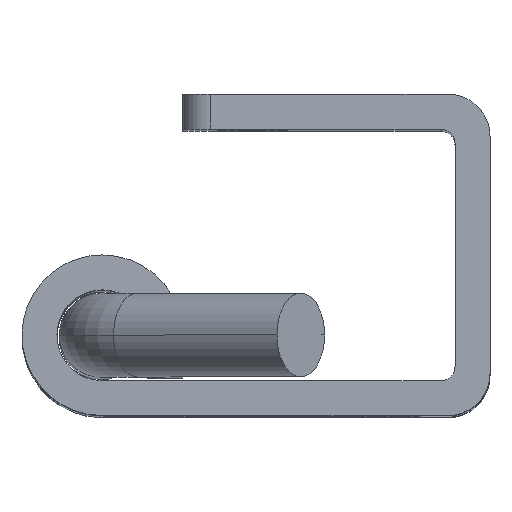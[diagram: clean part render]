
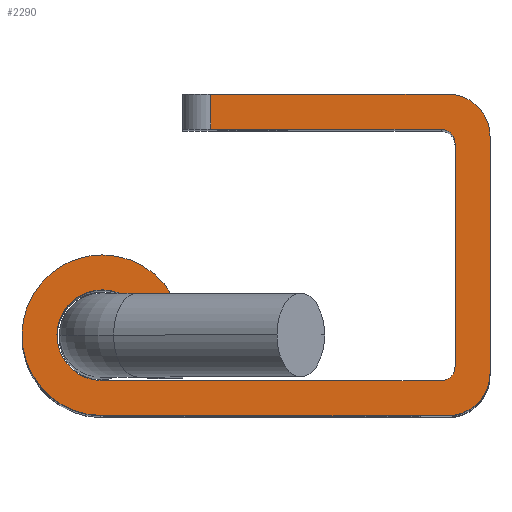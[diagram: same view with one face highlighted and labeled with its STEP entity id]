
A CAD part, top view. The second image highlights one B-rep face of the part: STEP entity #2290.
In plain terms, the highlighted planar face has unit normal (0, 0, 1).
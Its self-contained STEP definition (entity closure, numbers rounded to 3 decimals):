
#12 = DIRECTION ( 'NONE',  ( 0., 1., 0. ) ) ;
#17 = DIRECTION ( 'NONE',  ( 0., 1., 0. ) ) ;
#34 = DIRECTION ( 'NONE',  ( 1., 0., 0. ) ) ;
#39 = CARTESIAN_POINT ( 'NONE',  ( 25.357, 19.5, 45.5 ) ) ;
#80 = CARTESIAN_POINT ( 'NONE',  ( 24.857, 23., 45.5 ) ) ;
#81 = DIRECTION ( 'NONE',  ( 1., 0., 0. ) ) ;
#84 = VERTEX_POINT ( 'NONE', #80 ) ;
#95 = CARTESIAN_POINT ( 'NONE',  ( 0., 0., 45.5 ) ) ;
#101 = VERTEX_POINT ( 'NONE', #1336 ) ;
#130 = CARTESIAN_POINT ( 'NONE',  ( 24.357, 3.5, 45.5 ) ) ;
#135 = ORIENTED_EDGE ( 'NONE', *, *, #889, .T. ) ;
#146 = ORIENTED_EDGE ( 'NONE', *, *, #1002, .F. ) ;
#182 = VERTEX_POINT ( 'NONE', #1386 ) ;
#216 = EDGE_CURVE ( 'NONE', #2269, #101, #1798, .T. ) ;
#217 = EDGE_CURVE ( 'NONE', #1638, #1141, #2135, .T. ) ;
#225 = CARTESIAN_POINT ( 'NONE',  ( 5.857, 2.8, 45.5 ) ) ;
#244 = DIRECTION ( 'NONE',  ( 0., 0., 1. ) ) ;
#315 = CIRCLE ( 'NONE', #1644, 1. ) ;
#332 = CARTESIAN_POINT ( 'NONE',  ( 0.215, 0., 45.5 ) ) ;
#344 = CARTESIAN_POINT ( 'NONE',  ( 0., 0., 45.5 ) ) ;
#360 = VECTOR ( 'NONE', #1052, 1000. ) ;
#371 = VERTEX_POINT ( 'NONE', #963 ) ;
#390 = CARTESIAN_POINT ( 'NONE',  ( 0.107, 5.749, 45.5 ) ) ;
#400 = VERTEX_POINT ( 'NONE', #614 ) ;
#408 = CIRCLE ( 'NONE', #1252, 3. ) ;
#426 = EDGE_CURVE ( 'NONE', #371, #1845, #315, .T. ) ;
#444 = CIRCLE ( 'NONE', #1776, 3.25 ) ;
#457 = CARTESIAN_POINT ( 'NONE',  ( 7.857, 0., 45.5 ) ) ;
#478 = AXIS2_PLACEMENT_3D ( 'NONE', #1341, #244, #2272 ) ;
#485 = ORIENTED_EDGE ( 'NONE', *, *, #1525, .T. ) ;
#498 = CARTESIAN_POINT ( 'NONE',  ( 0.072, 0., 45.5 ) ) ;
#527 = CARTESIAN_POINT ( 'NONE',  ( 0., 0., 45.5 ) ) ;
#540 = CARTESIAN_POINT ( 'NONE',  ( 5.857, 5.749, 45.5 ) ) ;
#608 = EDGE_CURVE ( 'NONE', #2275, #1912, #925, .T. ) ;
#610 = CARTESIAN_POINT ( 'NONE',  ( 27.857, 3., 45.5 ) ) ;
#611 = DIRECTION ( 'NONE',  ( 0., 0., 1. ) ) ;
#614 = CARTESIAN_POINT ( 'NONE',  ( 7.857, 23., 45.5 ) ) ;
#632 = FACE_OUTER_BOUND ( 'NONE', #1691, .T. ) ;
#636 = ORIENTED_EDGE ( 'NONE', *, *, #1210, .T. ) ;
#651 = CARTESIAN_POINT ( 'NONE',  ( 3.357, 5.749, 45.5 ) ) ;
#705 = CARTESIAN_POINT ( 'NONE',  ( 0., 2.5, 45.5 ) ) ;
#720 = VECTOR ( 'NONE', #1757, 1000. ) ;
#730 = ORIENTED_EDGE ( 'NONE', *, *, #934, .T. ) ;
#756 = VERTEX_POINT ( 'NONE', #610 ) ;
#762 = EDGE_CURVE ( 'NONE', #1141, #756, #1214, .T. ) ;
#781 = CIRCLE ( 'NONE', #1211, 5.75 ) ;
#783 = CARTESIAN_POINT ( 'NONE',  ( 24.357, 19.5, 45.5 ) ) ;
#814 = ORIENTED_EDGE ( 'NONE', *, *, #608, .F. ) ;
#820 = ORIENTED_EDGE ( 'NONE', *, *, #2294, .T. ) ;
#821 = DIRECTION ( 'NONE',  ( 0., 0., -1. ) ) ;
#826 = LINE ( 'NONE', #1549, #1645 ) ;
#853 = VECTOR ( 'NONE', #1241, 1000. ) ;
#870 = CIRCLE ( 'NONE', #1475, 1. ) ;
#889 = EDGE_CURVE ( 'NONE', #400, #1098, #1059, .T. ) ;
#896 = DIRECTION ( 'NONE',  ( 0., 0., -1. ) ) ;
#925 = LINE ( 'NONE', #1119, #2174 ) ;
#934 = EDGE_CURVE ( 'NONE', #84, #400, #1589, .T. ) ;
#962 = ORIENTED_EDGE ( 'NONE', *, *, #1574, .T. ) ;
#963 = CARTESIAN_POINT ( 'NONE',  ( 24.357, 20.5, 45.5 ) ) ;
#1001 = CARTESIAN_POINT ( 'NONE',  ( 0.027, 2.5, 45.5 ) ) ;
#1002 = EDGE_CURVE ( 'NONE', #1742, #1845, #826, .T. ) ;
#1003 = ORIENTED_EDGE ( 'NONE', *, *, #2208, .T. ) ;
#1011 = AXIS2_PLACEMENT_3D ( 'NONE', #95, #2102, #81 ) ;
#1042 = VECTOR ( 'NONE', #1752, 1000. ) ;
#1052 = DIRECTION ( 'NONE',  ( 1., 0., 0. ) ) ;
#1059 = LINE ( 'NONE', #457, #1623 ) ;
#1065 = CARTESIAN_POINT ( 'NONE',  ( 5.857, 5.749, 45.5 ) ) ;
#1098 = VERTEX_POINT ( 'NONE', #2008 ) ;
#1108 = VERTEX_POINT ( 'NONE', #527 ) ;
#1119 = CARTESIAN_POINT ( 'NONE',  ( 3.357, 5.749, 45.5 ) ) ;
#1141 = VERTEX_POINT ( 'NONE', #1791 ) ;
#1181 = DIRECTION ( 'NONE',  ( -1., 0., 0. ) ) ;
#1185 = CARTESIAN_POINT ( 'NONE',  ( 27.857, 0., 45.5 ) ) ;
#1191 = CARTESIAN_POINT ( 'NONE',  ( 27.857, 23., 45.5 ) ) ;
#1198 = PLANE ( 'NONE',  #1011 ) ;
#1209 = DIRECTION ( 'NONE',  ( 0., 1., 0. ) ) ;
#1210 = EDGE_CURVE ( 'NONE', #1742, #101, #870, .T. ) ;
#1211 = AXIS2_PLACEMENT_3D ( 'NONE', #2282, #2094, #1376 ) ;
#1214 = CIRCLE ( 'NONE', #478, 3. ) ;
#1241 = DIRECTION ( 'NONE',  ( 1., 0., 0. ) ) ;
#1252 = AXIS2_PLACEMENT_3D ( 'NONE', #1370, #611, #1181 ) ;
#1289 = VECTOR ( 'NONE', #17, 1000. ) ;
#1310 = ORIENTED_EDGE ( 'NONE', *, *, #426, .T. ) ;
#1319 = CARTESIAN_POINT ( 'NONE',  ( 25.357, 3.5, 45.5 ) ) ;
#1336 = CARTESIAN_POINT ( 'NONE',  ( 24.357, 2.5, 45.5 ) ) ;
#1341 = CARTESIAN_POINT ( 'NONE',  ( 24.857, 3., 45.5 ) ) ;
#1368 = VERTEX_POINT ( 'NONE', #2207 ) ;
#1370 = CARTESIAN_POINT ( 'NONE',  ( 24.857, 20., 45.5 ) ) ;
#1376 = DIRECTION ( 'NONE',  ( 1., 0., 0. ) ) ;
#1386 = CARTESIAN_POINT ( 'NONE',  ( 5.857, 2.8, 45.5 ) ) ;
#1416 = LINE ( 'NONE', #1629, #720 ) ;
#1426 = CARTESIAN_POINT ( 'NONE',  ( 0., 0., 45.5 ) ) ;
#1428 = EDGE_CURVE ( 'NONE', #1912, #2269, #444, .T. ) ;
#1439 = DIRECTION ( 'NONE',  ( -1., 0., 0. ) ) ;
#1475 = AXIS2_PLACEMENT_3D ( 'NONE', #130, #896, #1439 ) ;
#1525 = EDGE_CURVE ( 'NONE', #756, #1368, #2088, .T. ) ;
#1546 = CARTESIAN_POINT ( 'NONE',  ( 3.357, 2.8, 45.5 ) ) ;
#1549 = CARTESIAN_POINT ( 'NONE',  ( 25.357, 0., 45.5 ) ) ;
#1574 = EDGE_CURVE ( 'NONE', #1108, #1638, #1635, .T. ) ;
#1578 = ORIENTED_EDGE ( 'NONE', *, *, #1981, .T. ) ;
#1589 = LINE ( 'NONE', #1191, #1042 ) ;
#1594 = VERTEX_POINT ( 'NONE', #1065 ) ;
#1604 = ORIENTED_EDGE ( 'NONE', *, *, #1749, .T. ) ;
#1623 = VECTOR ( 'NONE', #1779, 1000. ) ;
#1629 = CARTESIAN_POINT ( 'NONE',  ( 27.857, 20.5, 45.5 ) ) ;
#1635 = B_SPLINE_CURVE_WITH_KNOTS ( 'NONE', 3,
 ( #344, #498, #1786, #332 ),
 .UNSPECIFIED., .F., .F.,
 ( 4, 4 ),
 ( 0., 1. ),
 .UNSPECIFIED. ) ;
#1638 = VERTEX_POINT ( 'NONE', #1941 ) ;
#1644 = AXIS2_PLACEMENT_3D ( 'NONE', #783, #821, #2099 ) ;
#1645 = VECTOR ( 'NONE', #12, 1000. ) ;
#1650 = LINE ( 'NONE', #540, #1289 ) ;
#1675 = ORIENTED_EDGE ( 'NONE', *, *, #762, .T. ) ;
#1691 = EDGE_LOOP ( 'NONE', ( #730, #135, #1784, #1310, #146, #636, #1947, #2258, #814, #1003, #1604, #820, #962, #2248, #1675, #485, #1578 ) ) ;
#1711 = EDGE_CURVE ( 'NONE', #371, #1098, #1416, .T. ) ;
#1742 = VERTEX_POINT ( 'NONE', #1319 ) ;
#1749 = EDGE_CURVE ( 'NONE', #182, #1594, #1650, .T. ) ;
#1752 = DIRECTION ( 'NONE',  ( -1., 0., 0. ) ) ;
#1757 = DIRECTION ( 'NONE',  ( -1., 0., 0. ) ) ;
#1776 = AXIS2_PLACEMENT_3D ( 'NONE', #390, #2003, #1821 ) ;
#1779 = DIRECTION ( 'NONE',  ( 0., -1., 0. ) ) ;
#1784 = ORIENTED_EDGE ( 'NONE', *, *, #1711, .F. ) ;
#1786 = CARTESIAN_POINT ( 'NONE',  ( 0.143, 0., 45.5 ) ) ;
#1791 = CARTESIAN_POINT ( 'NONE',  ( 24.857, 0., 45.5 ) ) ;
#1798 = LINE ( 'NONE', #705, #853 ) ;
#1821 = DIRECTION ( 'NONE',  ( 1., 0., 0. ) ) ;
#1845 = VERTEX_POINT ( 'NONE', #39 ) ;
#1912 = VERTEX_POINT ( 'NONE', #651 ) ;
#1941 = CARTESIAN_POINT ( 'NONE',  ( 0.215, 0., 45.5 ) ) ;
#1947 = ORIENTED_EDGE ( 'NONE', *, *, #216, .F. ) ;
#1981 = EDGE_CURVE ( 'NONE', #1368, #84, #408, .T. ) ;
#1987 = DIRECTION ( 'NONE',  ( 0., 1., 0. ) ) ;
#2003 = DIRECTION ( 'NONE',  ( 0., 0., 1. ) ) ;
#2004 = VECTOR ( 'NONE', #34, 1000. ) ;
#2008 = CARTESIAN_POINT ( 'NONE',  ( 7.857, 20.5, 45.5 ) ) ;
#2029 = LINE ( 'NONE', #225, #2004 ) ;
#2088 = LINE ( 'NONE', #1185, #2274 ) ;
#2094 = DIRECTION ( 'NONE',  ( 0., 0., 1. ) ) ;
#2099 = DIRECTION ( 'NONE',  ( -1., 0., 0. ) ) ;
#2102 = DIRECTION ( 'NONE',  ( 0., 0., -1. ) ) ;
#2135 = LINE ( 'NONE', #1426, #360 ) ;
#2174 = VECTOR ( 'NONE', #1987, 1000. ) ;
#2207 = CARTESIAN_POINT ( 'NONE',  ( 27.857, 20., 45.5 ) ) ;
#2208 = EDGE_CURVE ( 'NONE', #2275, #182, #2029, .T. ) ;
#2248 = ORIENTED_EDGE ( 'NONE', *, *, #217, .T. ) ;
#2258 = ORIENTED_EDGE ( 'NONE', *, *, #1428, .F. ) ;
#2269 = VERTEX_POINT ( 'NONE', #1001 ) ;
#2272 = DIRECTION ( 'NONE',  ( -1., 0., 0. ) ) ;
#2274 = VECTOR ( 'NONE', #1209, 1000. ) ;
#2275 = VERTEX_POINT ( 'NONE', #1546 ) ;
#2282 = CARTESIAN_POINT ( 'NONE',  ( 0.107, 5.749, 45.5 ) ) ;
#2290 = ADVANCED_FACE ( 'NONE', ( #632 ), #1198, .F. ) ;
#2294 = EDGE_CURVE ( 'NONE', #1594, #1108, #781, .T. ) ;
